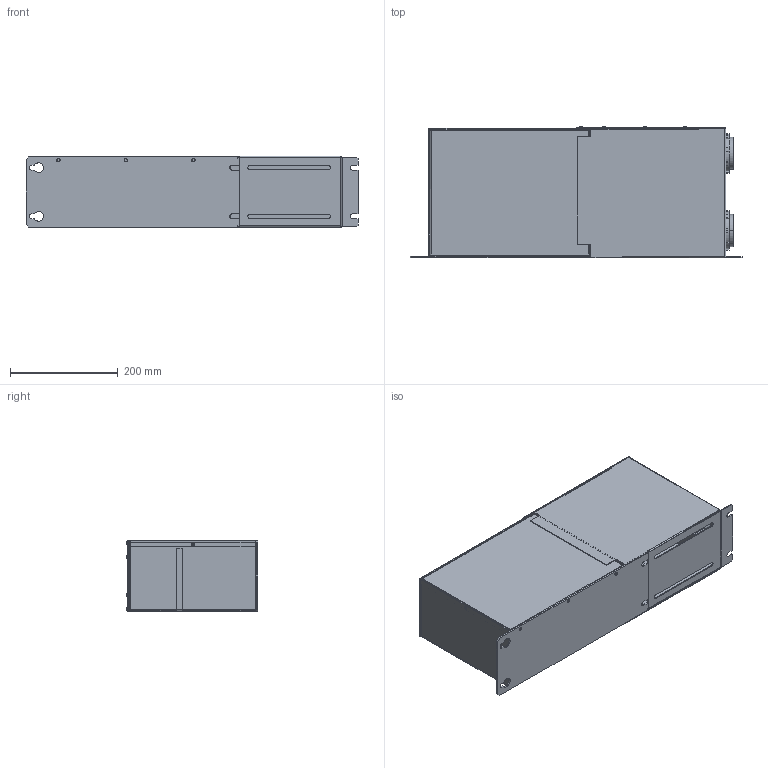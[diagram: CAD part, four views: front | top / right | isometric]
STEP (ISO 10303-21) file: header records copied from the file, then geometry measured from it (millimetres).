
FILE_DESCRIPTION(('STEP AP242'),'1');
FILE_NAME('vw3a4707.stp','2020-09-18T11:24:20',('TraceParts'),('TraceParts S.A.'),'Spatial InterOp 3D',' ',' ');
FILE_SCHEMA(('AP242_MANAGED_MODEL_BASED_3D_ENGINEERING_MIM_LF {1 0 10303 442 1 1 4}'));
Length unit declared in the file: millimetre
Products named in the file (1): vw3a4707_1
Bounding box: 615 x 243.85 x 133 mm (x, y, z)
Volume: 1391213.7 mm3; surface area: 1274639.8 mm2
Topology: 57 solids, 57 shells, 1709 faces, 4245 edges, 2731 vertices
Faces by surface type: plane 1009, cylinder 534, cone 118, torus 32, sphere 16
Entity records: 52437 total; most frequent: CARTESIAN_POINT 10469, DIRECTION 8896, ORIENTED_EDGE 8490, EDGE_CURVE 4245, AXIS2_PLACEMENT_3D 3148, VERTEX_POINT 2731, LINE 2600, VECTOR 2600
